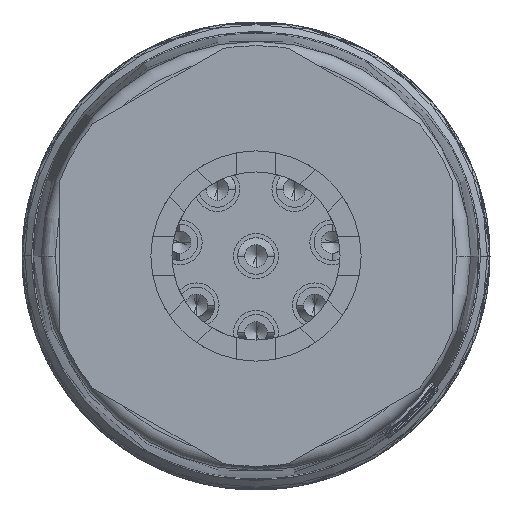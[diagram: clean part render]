
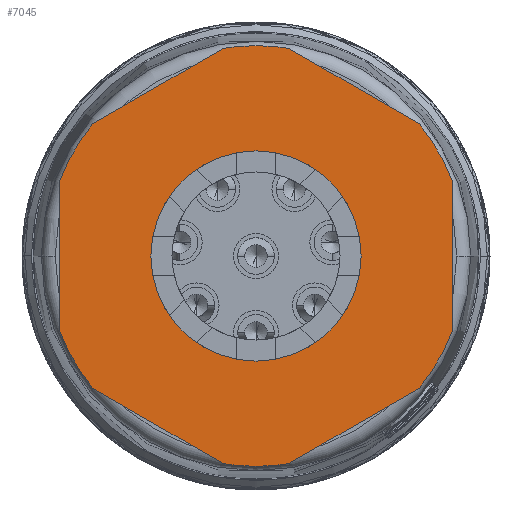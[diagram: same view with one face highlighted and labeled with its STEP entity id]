
A CAD part, left-side view. The second image highlights one B-rep face of the part: STEP entity #7045.
In plain terms, the highlighted planar face has unit normal (-1, 0, 0) as drawn and (0, 0, -1) by its records, which use the part's own axes.
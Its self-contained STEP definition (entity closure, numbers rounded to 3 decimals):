
#5111=DIRECTION('',(0.,-1.,0.));
#5112=VECTOR('',#5111,5.385);
#5113=CARTESIAN_POINT('',(12.505,8.193,-48.65));
#5114=LINE('',#5113,#5112);
#5200=DIRECTION('',(0.,1.,0.));
#5201=VECTOR('',#5200,5.385);
#5202=CARTESIAN_POINT('',(-1.495,2.807,
-48.65));
#5203=LINE('',#5202,#5201);
#5289=DIRECTION('',(-0.866,-0.5,0.));
#5290=VECTOR('',#5289,5.385);
#5291=CARTESIAN_POINT('',(4.336,12.908,-48.65));
#5292=LINE('',#5291,#5290);
#5296=CARTESIAN_POINT('',(5.505,5.5,-48.65));
#5297=DIRECTION('',(0.,0.,1.));
#5298=DIRECTION('',(-0.778,0.629,0.));
#5299=AXIS2_PLACEMENT_3D('',#5296,#5297,#5298);
#5304=CARTESIAN_POINT('',(5.505,5.5,-48.65));
#5305=DIRECTION('',(0.,0.,1.));
#5306=DIRECTION('',(-0.933,-0.359,0.));
#5307=AXIS2_PLACEMENT_3D('',#5304,#5305,#5306);
#5312=DIRECTION('',(0.866,-0.5,0.));
#5313=VECTOR('',#5312,5.385);
#5314=CARTESIAN_POINT('',(-0.327,0.784,
-48.65));
#5315=LINE('',#5314,#5313);
#5319=CARTESIAN_POINT('',(5.505,5.5,-48.65));
#5320=DIRECTION('',(0.,0.,1.));
#5321=DIRECTION('',(-0.156,-0.988,0.));
#5322=AXIS2_PLACEMENT_3D('',#5319,#5320,#5321);
#5327=CARTESIAN_POINT('',(5.505,5.5,-48.65));
#5328=DIRECTION('',(0.,0.,1.));
#5329=DIRECTION('',(0.,-1.,0.));
#5330=AXIS2_PLACEMENT_3D('',#5327,#5328,#5329);
#5335=DIRECTION('',(0.866,0.5,0.));
#5336=VECTOR('',#5335,5.385);
#5337=CARTESIAN_POINT('',(6.673,-1.908,
-48.65));
#5338=LINE('',#5337,#5336);
#5342=CARTESIAN_POINT('',(5.505,5.5,-48.65));
#5343=DIRECTION('',(0.,0.,1.));
#5344=DIRECTION('',(0.778,-0.629,0.));
#5345=AXIS2_PLACEMENT_3D('',#5342,#5343,#5344);
#5350=CARTESIAN_POINT('',(5.505,5.5,-48.65));
#5351=DIRECTION('',(0.,0.,1.));
#5352=DIRECTION('',(0.933,0.359,0.));
#5353=AXIS2_PLACEMENT_3D('',#5350,#5351,#5352);
#5358=DIRECTION('',(-0.866,0.5,0.));
#5359=VECTOR('',#5358,5.385);
#5360=CARTESIAN_POINT('',(11.336,10.216,-48.65));
#5361=LINE('',#5360,#5359);
#5365=CARTESIAN_POINT('',(5.505,5.5,-48.65));
#5366=DIRECTION('',(0.,0.,1.));
#5367=DIRECTION('',(0.156,0.988,0.));
#5368=AXIS2_PLACEMENT_3D('',#5365,#5366,#5367);
#5373=CARTESIAN_POINT('',(5.505,5.5,-48.65));
#5374=DIRECTION('',(0.,0.,1.));
#5375=DIRECTION('',(0.,1.,0.));
#5376=AXIS2_PLACEMENT_3D('',#5373,#5374,#5375);
#5381=CARTESIAN_POINT('',(5.505,5.5,-48.65));
#5382=DIRECTION('',(0.,0.,-1.));
#5383=DIRECTION('',(-1.,0.,0.));
#5384=AXIS2_PLACEMENT_3D('',#5381,#5382,#5383);
#5389=CARTESIAN_POINT('',(5.505,5.5,-48.65));
#5390=DIRECTION('',(0.,0.,-1.));
#5391=DIRECTION('',(1.,0.,0.));
#5392=AXIS2_PLACEMENT_3D('',#5389,#5390,#5391);
#5587=CARTESIAN_POINT('',(12.505,8.193,-48.65));
#5588=VERTEX_POINT('',#5587);
#5589=CARTESIAN_POINT('',(12.505,2.807,-48.65));
#5590=VERTEX_POINT('',#5589);
#5591=CARTESIAN_POINT('',(11.336,10.216,-48.65));
#5592=VERTEX_POINT('',#5591);
#5595=CARTESIAN_POINT('',(6.673,12.908,-48.65));
#5596=VERTEX_POINT('',#5595);
#5603=CARTESIAN_POINT('',(-0.327,10.216,
-48.65));
#5604=VERTEX_POINT('',#5603);
#5605=CARTESIAN_POINT('',(4.336,12.908,-48.65));
#5606=VERTEX_POINT('',#5605);
#5611=CARTESIAN_POINT('',(-1.495,2.807,
-48.65));
#5612=VERTEX_POINT('',#5611);
#5613=CARTESIAN_POINT('',(-1.495,8.193,
-48.65));
#5614=VERTEX_POINT('',#5613);
#5619=CARTESIAN_POINT('',(4.336,-1.908,
-48.65));
#5620=VERTEX_POINT('',#5619);
#5621=CARTESIAN_POINT('',(-0.327,0.784,
-48.65));
#5622=VERTEX_POINT('',#5621);
#5627=CARTESIAN_POINT('',(11.336,0.784,
-48.65));
#5628=VERTEX_POINT('',#5627);
#5629=CARTESIAN_POINT('',(6.673,-1.908,
-48.65));
#5630=VERTEX_POINT('',#5629);
#5631=CARTESIAN_POINT('',(5.505,-2.,-48.65));
#5632=VERTEX_POINT('',#5631);
#5633=CARTESIAN_POINT('',(5.505,13.,-48.65));
#5634=VERTEX_POINT('',#5633);
#5635=CARTESIAN_POINT('',(1.755,5.5,-48.65));
#5636=CARTESIAN_POINT('',(9.255,5.5,-48.65));
#5637=VERTEX_POINT('',#5635);
#5638=VERTEX_POINT('',#5636);
#7012=CARTESIAN_POINT('',(5.505,5.5,-48.65));
#7013=DIRECTION('',(0.,0.,-1.));
#7014=DIRECTION('',(0.,-1.,0.));
#7015=AXIS2_PLACEMENT_3D('',#7012,#7013,#7014);
#7016=PLANE('',#7015);
#7017=ORIENTED_EDGE('',*,*,#6898,.T.);
#7019=ORIENTED_EDGE('',*,*,#7018,.T.);
#7020=ORIENTED_EDGE('',*,*,#6929,.F.);
#7022=ORIENTED_EDGE('',*,*,#7021,.T.);
#7023=ORIENTED_EDGE('',*,*,#6959,.T.);
#7025=ORIENTED_EDGE('',*,*,#7024,.T.);
#7027=ORIENTED_EDGE('',*,*,#7026,.T.);
#7028=ORIENTED_EDGE('',*,*,#6992,.T.);
#7029=ORIENTED_EDGE('',*,*,#7007,.T.);
#7030=ORIENTED_EDGE('',*,*,#6835,.F.);
#7031=ORIENTED_EDGE('',*,*,#6851,.T.);
#7032=ORIENTED_EDGE('',*,*,#6865,.T.);
#7034=ORIENTED_EDGE('',*,*,#7033,.T.);
#7036=ORIENTED_EDGE('',*,*,#7035,.T.);
#7037=EDGE_LOOP('',(#7017,#7019,#7020,#7022,#7023,#7025,#7027,#7028,#7029,#7030,
#7031,#7032,#7034,#7036));
#7038=FACE_OUTER_BOUND('',#7037,.F.);
#7040=ORIENTED_EDGE('',*,*,#7039,.T.);
#7042=ORIENTED_EDGE('',*,*,#7041,.T.);
#7043=EDGE_LOOP('',(#7040,#7042));
#7044=FACE_BOUND('',#7043,.F.);
#5300=CIRCLE('',#5299,7.5);
#5308=CIRCLE('',#5307,7.5);
#5323=CIRCLE('',#5322,7.5);
#5331=CIRCLE('',#5330,7.5);
#5346=CIRCLE('',#5345,7.5);
#5354=CIRCLE('',#5353,7.5);
#5369=CIRCLE('',#5368,7.5);
#5377=CIRCLE('',#5376,7.5);
#5385=CIRCLE('',#5384,3.75);
#5393=CIRCLE('',#5392,3.75);
#6835=EDGE_CURVE('',#5588,#5590,#5114,.T.);
#6851=EDGE_CURVE('',#5588,#5592,#5354,.T.);
#6865=EDGE_CURVE('',#5592,#5596,#5361,.T.);
#6898=EDGE_CURVE('',#5606,#5604,#5292,.T.);
#6929=EDGE_CURVE('',#5612,#5614,#5203,.T.);
#6959=EDGE_CURVE('',#5622,#5620,#5315,.T.);
#6992=EDGE_CURVE('',#5630,#5628,#5338,.T.);
#7007=EDGE_CURVE('',#5628,#5590,#5346,.T.);
#7018=EDGE_CURVE('',#5604,#5614,#5300,.T.);
#7021=EDGE_CURVE('',#5612,#5622,#5308,.T.);
#7024=EDGE_CURVE('',#5620,#5632,#5323,.T.);
#7026=EDGE_CURVE('',#5632,#5630,#5331,.T.);
#7033=EDGE_CURVE('',#5596,#5634,#5369,.T.);
#7035=EDGE_CURVE('',#5634,#5606,#5377,.T.);
#7039=EDGE_CURVE('',#5637,#5638,#5385,.T.);
#7041=EDGE_CURVE('',#5638,#5637,#5393,.T.);
#7045=ADVANCED_FACE('',(#7038,#7044),#7016,.T.);
